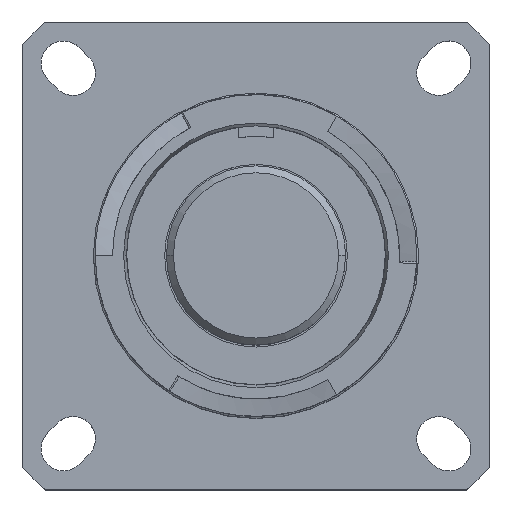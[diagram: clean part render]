
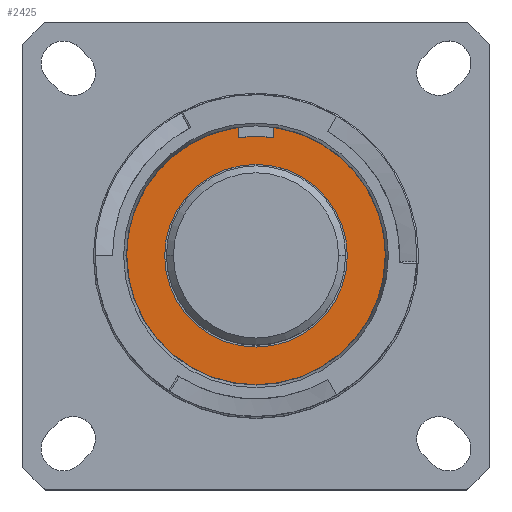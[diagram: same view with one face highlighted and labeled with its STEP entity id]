
A CAD part, top view. The second image highlights one B-rep face of the part: STEP entity #2425.
In plain terms, the highlighted planar face has unit normal (0, 0, 1).
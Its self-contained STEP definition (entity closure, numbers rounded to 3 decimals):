
#62 = CARTESIAN_POINT ( 'NONE',  ( 0., 9.461, -13.335 ) ) ;
#184 = VERTEX_POINT ( 'NONE', #4282 ) ;
#191 = VERTEX_POINT ( 'NONE', #2306 ) ;
#196 = CARTESIAN_POINT ( 'NONE',  ( -6.667, 0., -13.335 ) ) ;
#379 = AXIS2_PLACEMENT_3D ( 'NONE', #5539, #755, #4590 ) ;
#556 = DIRECTION ( 'NONE',  ( 0., 0., -1. ) ) ;
#700 = DIRECTION ( 'NONE',  ( 1., 0., 0. ) ) ;
#755 = DIRECTION ( 'NONE',  ( 0., 0., 1. ) ) ;
#889 = DIRECTION ( 'NONE',  ( 1., 0., 0. ) ) ;
#969 = FACE_BOUND ( 'NONE', #1740, .T. ) ;
#1027 = PLANE ( 'NONE',  #2530 ) ;
#1214 = DIRECTION ( 'NONE',  ( 1., 0., 0. ) ) ;
#1309 = DIRECTION ( 'NONE',  ( 0., 0., 1. ) ) ;
#1740 = EDGE_LOOP ( 'NONE', ( #3490, #1828 ) ) ;
#1753 = CARTESIAN_POINT ( 'NONE',  ( 0., 0., -13.335 ) ) ;
#1828 = ORIENTED_EDGE ( 'NONE', *, *, #2078, .F. ) ;
#2078 = EDGE_CURVE ( 'NONE', #5149, #191, #4294, .T. ) ;
#2306 = CARTESIAN_POINT ( 'NONE',  ( 6.667, 0., -13.335 ) ) ;
#2351 = CIRCLE ( 'NONE', #3954, 9.461 ) ;
#2394 = ORIENTED_EDGE ( 'NONE', *, *, #3465, .T. ) ;
#2425 = ADVANCED_FACE ( 'NONE', ( #4295, #969 ), #1027, .F. ) ;
#2493 = CARTESIAN_POINT ( 'NONE',  ( -9.461, 0., -13.335 ) ) ;
#2530 = AXIS2_PLACEMENT_3D ( 'NONE', #62, #556, #4767 ) ;
#2763 = EDGE_CURVE ( 'NONE', #191, #5149, #2817, .T. ) ;
#2817 = CIRCLE ( 'NONE', #4937, 6.667 ) ;
#2854 = EDGE_CURVE ( 'NONE', #5811, #184, #5243, .T. ) ;
#3357 = DIRECTION ( 'NONE',  ( 0., 0., 1. ) ) ;
#3411 = AXIS2_PLACEMENT_3D ( 'NONE', #1753, #1309, #1214 ) ;
#3465 = EDGE_CURVE ( 'NONE', #184, #5811, #2351, .T. ) ;
#3490 = ORIENTED_EDGE ( 'NONE', *, *, #2763, .F. ) ;
#3674 = ORIENTED_EDGE ( 'NONE', *, *, #2854, .T. ) ;
#3954 = AXIS2_PLACEMENT_3D ( 'NONE', #6121, #3357, #889 ) ;
#4282 = CARTESIAN_POINT ( 'NONE',  ( 9.461, 0., -13.335 ) ) ;
#4294 = CIRCLE ( 'NONE', #379, 6.667 ) ;
#4295 = FACE_OUTER_BOUND ( 'NONE', #5902, .T. ) ;
#4590 = DIRECTION ( 'NONE',  ( 1., 0., 0. ) ) ;
#4767 = DIRECTION ( 'NONE',  ( -1., 0., 0. ) ) ;
#4937 = AXIS2_PLACEMENT_3D ( 'NONE', #5454, #5423, #700 ) ;
#5149 = VERTEX_POINT ( 'NONE', #196 ) ;
#5243 = CIRCLE ( 'NONE', #3411, 9.461 ) ;
#5423 = DIRECTION ( 'NONE',  ( 0., 0., 1. ) ) ;
#5454 = CARTESIAN_POINT ( 'NONE',  ( 0., 0., -13.335 ) ) ;
#5539 = CARTESIAN_POINT ( 'NONE',  ( 0., 0., -13.335 ) ) ;
#5811 = VERTEX_POINT ( 'NONE', #2493 ) ;
#5902 = EDGE_LOOP ( 'NONE', ( #2394, #3674 ) ) ;
#6121 = CARTESIAN_POINT ( 'NONE',  ( 0., 0., -13.335 ) ) ;
